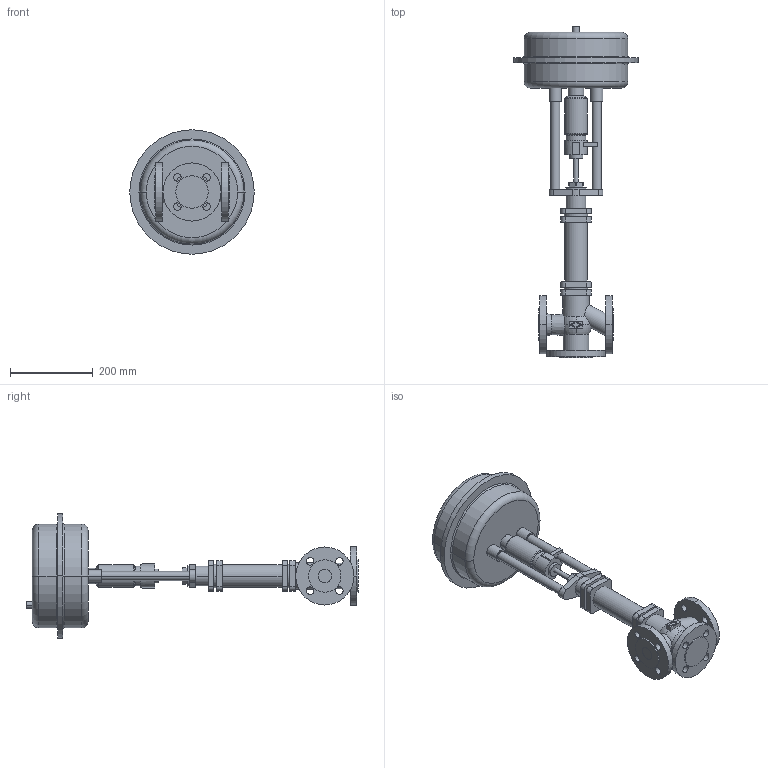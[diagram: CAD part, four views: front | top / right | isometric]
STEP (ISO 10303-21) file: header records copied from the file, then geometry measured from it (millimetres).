
FILE_DESCRIPTION(('OneSpaceDesigner STEP Export'),'2;1');
FILE_NAME('c000000707.stp','2006-09-21T 8:30:37',(''),(''),'OneSpace Designer STEP processor for AP214 (Solid Model)','OneSpace Designer 13.20A 18-Aug-2005 (C) CoCreate Software GmbH','');
FILE_SCHEMA(('AUTOMOTIVE_DESIGN { 1 0 10303 214 1 1 1 1 }'));
Length unit declared in the file: millimetre
Products named in the file (2): 1; 2
Bounding box: 300 x 800.6 x 300 mm (x, y, z)
Volume: 9461956.4 mm3; surface area: 542109 mm2
Topology: 2 solids, 2 shells, 243 faces, 597 edges, 391 vertices
Faces by surface type: cylinder 112, plane 100, torus 23, cone 8
Entity records: 6640 total; most frequent: CARTESIAN_POINT 1270, ORIENTED_EDGE 1194, DIRECTION 1002, EDGE_CURVE 597, VERTEX_POINT 391, AXIS2_PLACEMENT_3D 361, EDGE_LOOP 300, VECTOR 280
